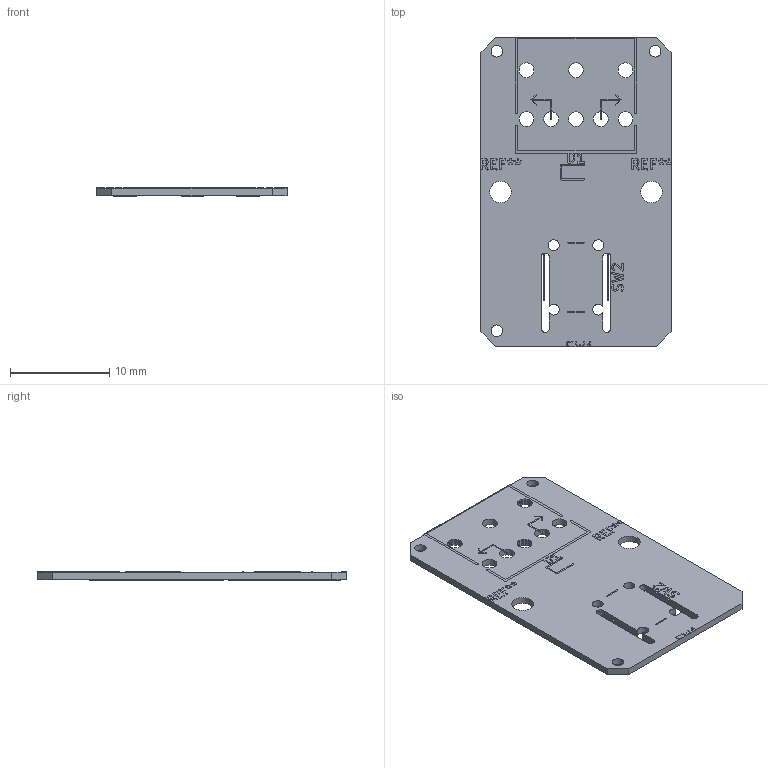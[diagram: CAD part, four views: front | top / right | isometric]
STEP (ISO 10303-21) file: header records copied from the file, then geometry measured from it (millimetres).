
FILE_DESCRIPTION(('KiCad electronic assembly'),'2;1');
FILE_NAME('Daughterboard v0.5 (PJ307).step','2025-05-05T15:38:32',( 'Pcbnew'),('Kicad'),'Open CASCADE STEP processor 7.8', 'KiCad to STEP converter','Unknown');
FILE_SCHEMA(('AUTOMOTIVE_DESIGN { 1 0 10303 214 1 1 1 1 }'));
Length unit declared in the file: millimetre
Products named in the file (3): Daughterboard v0.5 (PJ307) 1; Daughterboard v0.5 (PJ307)_silkscreen; Daughterboard v0.5 (PJ307)_PCB
Assembly tree (2 placements, depth 2):
  Daughterboard v0.5 (PJ307) 1
    Daughterboard v0.5 (PJ307)_silkscreen
    Daughterboard v0.5 (PJ307)_PCB
Bounding box: 19.2 x 31.2 x 0.86 mm (x, y, z)
Volume: 393 mm3; surface area: 1322.1 mm2
Topology: 1 solids, 36 shells, 167 faces, 1257 edges, 1127 vertices
Faces by surface type: plane 147, cylinder 20
Full cylindrical faces by diameter (mm): 1.1 x2, 1.152 x3, 1.5 x5, 2.2 x2
Entity records: 23814 total; most frequent: CARTESIAN_POINT 5145, DIRECTION 3225, LINE 2542, VECTOR 2542, ORIENTED_EDGE 1647, PCURVE 1647, DEFINITIONAL_REPRESENTATION 1647, EDGE_CURVE 1257
